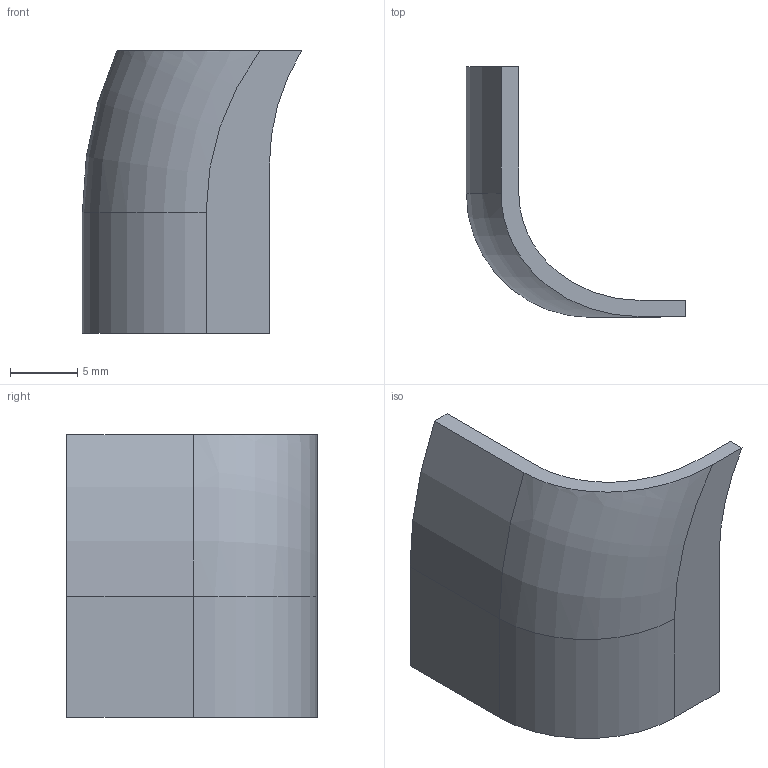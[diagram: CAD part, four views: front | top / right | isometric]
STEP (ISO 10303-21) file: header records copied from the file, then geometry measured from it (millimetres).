
FILE_DESCRIPTION(('Open CASCADE Model'),'2;1');
FILE_NAME('front_grip_skin_finegrain_cream','2026-09-06T11:35:16',( 'Author'),('Open CASCADE'),'Open CASCADE STEP processor 7.8', 'build123d','Unknown');
FILE_SCHEMA(('AUTOMOTIVE_DESIGN { 1 0 10303 214 1 1 1 1 }'));
Length unit declared in the file: millimetre
Products named in the file (1): front_grip_skin_finegrain_cream
Bounding box: 16.29 x 18.6 x 21 mm (x, y, z)
Volume: 691.8 mm3; surface area: 1302.1 mm2
Topology: 1 solids, 1 shells, 21 faces, 52 edges, 33 vertices
Faces by surface type: plane 14, cylinder 5, torus 2
Entity records: 1435 total; most frequent: CARTESIAN_POINT 413, DIRECTION 174, ORIENTED_EDGE 104, PCURVE 104, DEFINITIONAL_REPRESENTATION 104, LINE 102, VECTOR 102, EDGE_CURVE 52
